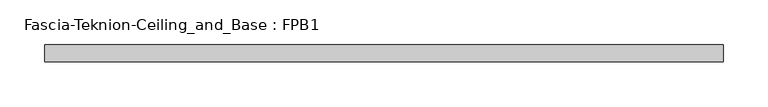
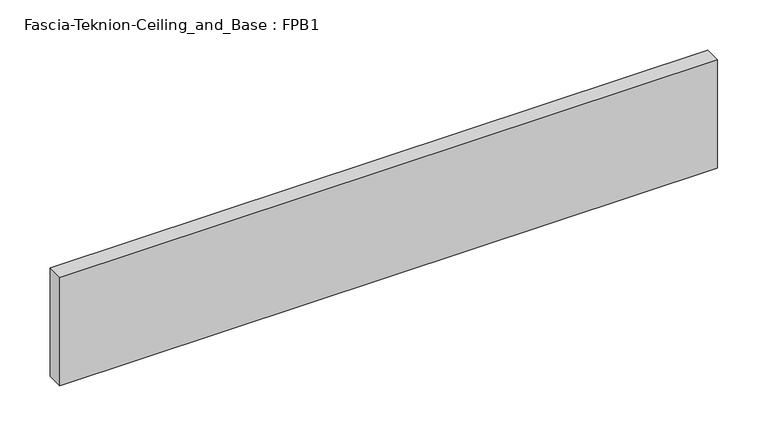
"""IFC4 building model written with IfcOpenShell, lengths in millimetres: proxy geometry, Fascia-Teknion-Ceiling_and_Base : FPB1."""

from ifc_helpers import new_model, si_unit, origin, origin_with_axes, place, context, project, spatial, polyline, outline, extrude, source, transform, mapped, element, save


def fascia_teknion_ceiling_and_base_fpb1_db7fbf47(model_context):
    return source(origin(), model_context, "Body", "SweptSolid", [
        extrude(outline(polyline([(378.4203125, 0.0), (-378.4203125, 0.0), (-378.4203125, 19.05), (378.4203125, 19.05), (378.4203125, 0.0)])), origin_with_axes(), (0.0, 0.0, 1.0), 132.08),
    ])


if __name__ == "__main__":
    model = new_model("IFC4")
    model_context = context("Model", 3, world=origin())
    ifc_project = project(units=[si_unit("LENGTHUNIT", "METRE", prefix="MILLI")], contexts=[model_context])
    site = spatial("IfcSite", under=ifc_project)
    building = spatial("IfcBuilding", under=site)
    placement = place(None, origin())
    fascia_teknion_ceiling_and_base_fpb1_shape = fascia_teknion_ceiling_and_base_fpb1_db7fbf47(model_context)
    element("IfcBuildingElementProxy", 1, Name="Fascia-Teknion-Ceiling_and_Base : FPB1", ObjectType="Fascia-Teknion-Ceiling_and_Base : FPB1", at=placement, inside=building, context=model_context, shape_type="MappedRepresentation", body=[
        mapped(fascia_teknion_ceiling_and_base_fpb1_shape, transform((0.0, 0.0, 0.0), x_axis=(1.0, 0.0, 0.0), y_axis=(0.0, 1.0, 0.0), z_axis=(0.0, 0.0, 1.0))),
    ])
    save(model, "model.ifc")
